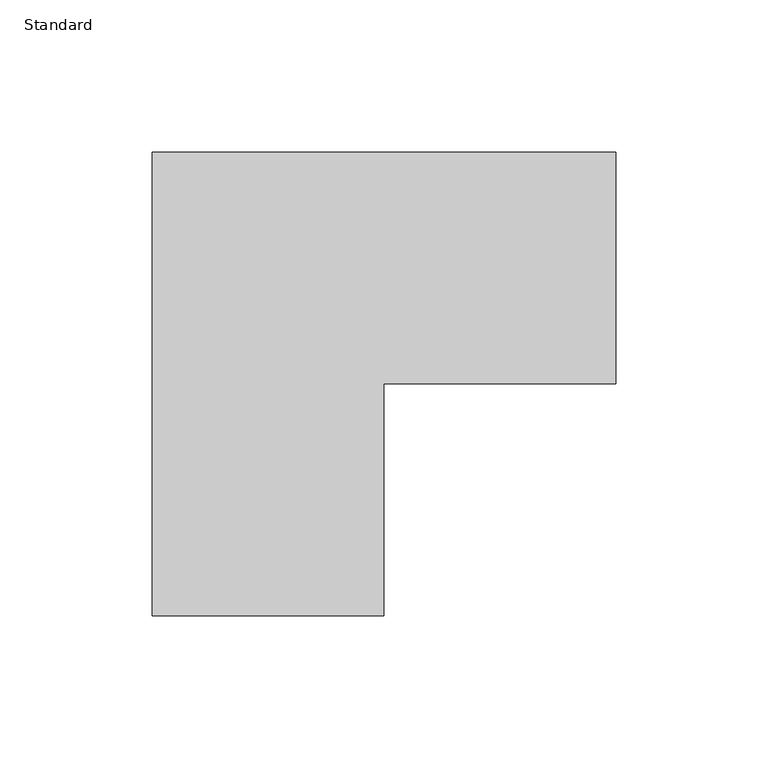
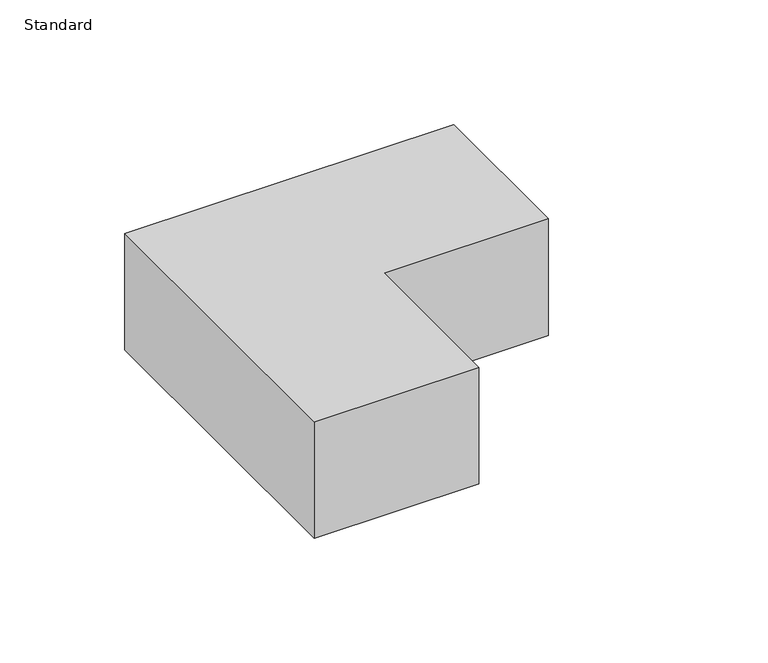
"""IFC4 building model written with IfcOpenShell, lengths in millimetres: proxy geometry, Elbow-ALA3800_Series-Wiremold-Horizontal-Flat : Standard."""

from ifc_helpers import new_model, si_unit, origin, origin_with_axes, place, context, project, spatial, polyline, outline, extrude, source, transform, mapped, element, save


def standard_6c6322a3(model_context):
    return source(origin(), model_context, "Body", "SweptSolid", [
        extrude(outline(polyline([(114.3, 38.1), (114.3, -38.1), (38.1, -38.1), (38.1, -114.3), (-38.1, -114.3), (-38.1, 38.1), (114.3, 38.1)])), origin_with_axes(), (0.0, 0.0, 1.0), 57.15),
    ])


if __name__ == "__main__":
    model = new_model("IFC4")
    model_context = context("Model", 3, world=origin())
    ifc_project = project(units=[si_unit("LENGTHUNIT", "METRE", prefix="MILLI")], contexts=[model_context])
    site = spatial("IfcSite", under=ifc_project)
    building = spatial("IfcBuilding", under=site)
    placement = place(None, origin())
    standard_shape = standard_6c6322a3(model_context)
    element("IfcBuildingElementProxy", 1, Name="Elbow-ALA3800_Series-Wiremold-Horizontal-Flat : Standard", ObjectType="Elbow-ALA3800_Series-Wiremold-Horizontal-Flat : Standard", at=placement, inside=building, context=model_context, shape_type="MappedRepresentation", body=[
        mapped(standard_shape, transform((0.0, 0.0, 0.0), x_axis=(1.0, 0.0, 0.0), y_axis=(0.0, 1.0, 0.0), z_axis=(0.0, 0.0, 1.0))),
    ])
    save(model, "model.ifc")
